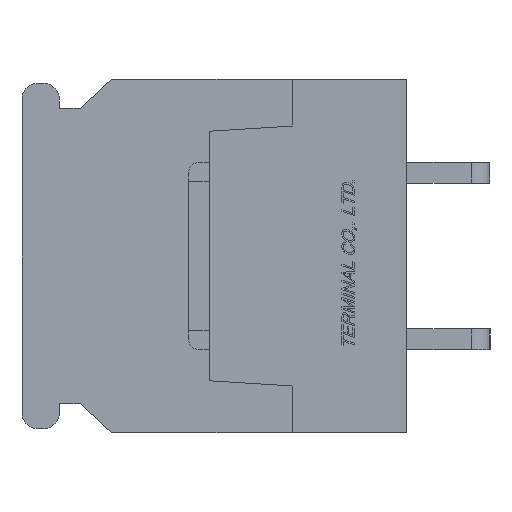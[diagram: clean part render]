
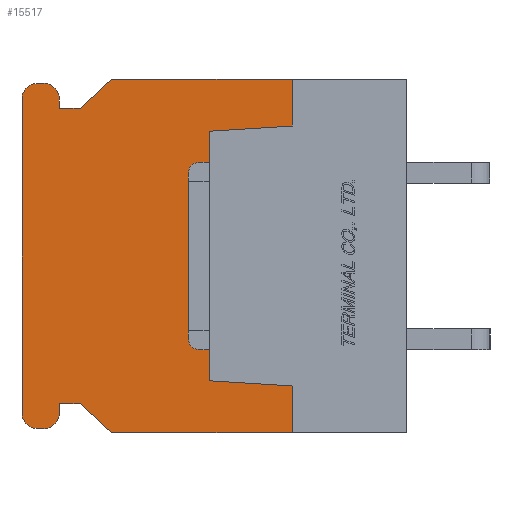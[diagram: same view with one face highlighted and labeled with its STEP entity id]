
A CAD part, left-side view. The second image highlights one B-rep face of the part: STEP entity #15517.
In plain terms, the highlighted planar face has unit normal (-1, 0, 0).
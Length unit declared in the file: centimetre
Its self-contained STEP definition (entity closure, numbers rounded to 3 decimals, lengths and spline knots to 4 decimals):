
#919=CIRCLE('',#16658,0.075);
#920=CIRCLE('',#16661,0.075);
#921=CIRCLE('',#16664,0.075);
#922=CIRCLE('',#16667,0.075);
#2085=VERTEX_POINT('',#24239);
#2086=VERTEX_POINT('',#24241);
#2087=VERTEX_POINT('',#24245);
#2088=VERTEX_POINT('',#24249);
#2089=VERTEX_POINT('',#24253);
#2090=VERTEX_POINT('',#24257);
#2135=VERTEX_POINT('',#24406);
#2136=VERTEX_POINT('',#24410);
#2137=VERTEX_POINT('',#24414);
#2138=VERTEX_POINT('',#24418);
#2139=VERTEX_POINT('',#24422);
#2140=VERTEX_POINT('',#24426);
#2141=VERTEX_POINT('',#24430);
#2142=VERTEX_POINT('',#24434);
#2143=VERTEX_POINT('',#24438);
#2144=VERTEX_POINT('',#24442);
#2145=VERTEX_POINT('',#24446);
#2146=VERTEX_POINT('',#24450);
#2147=VERTEX_POINT('',#24454);
#2148=VERTEX_POINT('',#24458);
#3723=VECTOR('',#19374,1.);
#3726=VECTOR('',#19378,1.);
#3728=VECTOR('',#19381,1.);
#3730=VECTOR('',#19384,1.);
#3732=VECTOR('',#19387,1.);
#3794=VECTOR('',#19507,1.);
#3796=VECTOR('',#19510,1.);
#3798=VECTOR('',#19513,1.);
#3800=VECTOR('',#19516,1.);
#3803=VECTOR('',#19524,1.);
#3806=VECTOR('',#19532,1.);
#3809=VECTOR('',#19540,1.);
#3812=VECTOR('',#19548,1.);
#3814=VECTOR('',#19551,1.);
#3816=VECTOR('',#19554,1.);
#3817=VECTOR('',#19556,1.);
#5451=LINE('',#24240,#3723);
#5454=LINE('',#24246,#3726);
#5456=LINE('',#24250,#3728);
#5458=LINE('',#24254,#3730);
#5460=LINE('',#24258,#3732);
#5522=LINE('',#24407,#3794);
#5524=LINE('',#24411,#3796);
#5526=LINE('',#24415,#3798);
#5528=LINE('',#24419,#3800);
#5531=LINE('',#24427,#3803);
#5534=LINE('',#24435,#3806);
#5537=LINE('',#24443,#3809);
#5540=LINE('',#24451,#3812);
#5542=LINE('',#24455,#3814);
#5544=LINE('',#24459,#3816);
#5545=LINE('',#24461,#3817);
#7649=EDGE_CURVE('',#2086,#2085,#5451,.T.);
#7652=EDGE_CURVE('',#2085,#2087,#5454,.T.);
#7654=EDGE_CURVE('',#2087,#2088,#5456,.T.);
#7656=EDGE_CURVE('',#2088,#2089,#5458,.T.);
#7658=EDGE_CURVE('',#2089,#2090,#5460,.T.);
#7732=EDGE_CURVE('',#2135,#2090,#5522,.T.);
#7734=EDGE_CURVE('',#2136,#2135,#5524,.T.);
#7736=EDGE_CURVE('',#2137,#2136,#5526,.T.);
#7738=EDGE_CURVE('',#2138,#2137,#5528,.T.);
#7740=EDGE_CURVE('',#2139,#2138,#919,.T.);
#7742=EDGE_CURVE('',#2140,#2139,#5531,.T.);
#7744=EDGE_CURVE('',#2141,#2140,#920,.T.);
#7746=EDGE_CURVE('',#2142,#2141,#5534,.T.);
#7748=EDGE_CURVE('',#2143,#2142,#921,.T.);
#7750=EDGE_CURVE('',#2144,#2143,#5537,.T.);
#7752=EDGE_CURVE('',#2145,#2144,#922,.T.);
#7754=EDGE_CURVE('',#2146,#2145,#5540,.T.);
#7756=EDGE_CURVE('',#2147,#2146,#5542,.T.);
#7758=EDGE_CURVE('',#2148,#2147,#5544,.T.);
#7759=EDGE_CURVE('',#2086,#2148,#5545,.T.);
#11887=ORIENTED_EDGE('',*,*,#7658,.T.);
#11888=ORIENTED_EDGE('',*,*,#7732,.F.);
#11889=ORIENTED_EDGE('',*,*,#7734,.F.);
#11890=ORIENTED_EDGE('',*,*,#7736,.F.);
#11891=ORIENTED_EDGE('',*,*,#7738,.F.);
#11892=ORIENTED_EDGE('',*,*,#7740,.F.);
#11893=ORIENTED_EDGE('',*,*,#7742,.F.);
#11894=ORIENTED_EDGE('',*,*,#7744,.F.);
#11895=ORIENTED_EDGE('',*,*,#7746,.F.);
#11896=ORIENTED_EDGE('',*,*,#7748,.F.);
#11897=ORIENTED_EDGE('',*,*,#7750,.F.);
#11898=ORIENTED_EDGE('',*,*,#7752,.F.);
#11899=ORIENTED_EDGE('',*,*,#7754,.F.);
#11900=ORIENTED_EDGE('',*,*,#7756,.F.);
#11901=ORIENTED_EDGE('',*,*,#7758,.F.);
#11902=ORIENTED_EDGE('',*,*,#7759,.F.);
#11903=ORIENTED_EDGE('',*,*,#7649,.T.);
#11904=ORIENTED_EDGE('',*,*,#7652,.T.);
#11905=ORIENTED_EDGE('',*,*,#7654,.T.);
#11906=ORIENTED_EDGE('',*,*,#7656,.T.);
#13657=EDGE_LOOP('',(#11887,#11888,#11889,#11890,#11891,#11892,#11893,#11894,
#11895,#11896,#11897,#11898,#11899,#11900,#11901,#11902,#11903,#11904,#11905,
#11906));
#14633=FACE_BOUND('',#13657,.T.);
#15517=ADVANCED_FACE('',(#14633),#26417,.F.);
#16658=AXIS2_PLACEMENT_3D('',#24423,#19520,#19521);
#16661=AXIS2_PLACEMENT_3D('',#24431,#19528,#19529);
#16664=AXIS2_PLACEMENT_3D('',#24439,#19536,#19537);
#16667=AXIS2_PLACEMENT_3D('',#24447,#19544,#19545);
#16672=AXIS2_PLACEMENT_3D('',#24462,#19557,$);
#19374=DIRECTION('',(0.,0.,1.));
#19378=DIRECTION('',(0.,0.998,0.062));
#19381=DIRECTION('',(0.,0.,1.));
#19384=DIRECTION('',(0.,-0.998,0.062));
#19387=DIRECTION('',(0.,0.,1.));
#19507=DIRECTION('',(0.,-1.,0.));
#19510=DIRECTION('',(0.,-0.731,0.682));
#19513=DIRECTION('',(0.,-1.,0.));
#19516=DIRECTION('',(0.,0.,-1.));
#19520=DIRECTION('',(1.,0.,0.));
#19521=DIRECTION('',(0.,0.,-0.075));
#19524=DIRECTION('',(0.,-1.,0.));
#19528=DIRECTION('',(1.,0.,0.));
#19529=DIRECTION('',(0.,0.,-0.075));
#19532=DIRECTION('',(0.,0.,1.));
#19536=DIRECTION('',(1.,0.,0.));
#19537=DIRECTION('',(0.,0.,-0.075));
#19540=DIRECTION('',(0.,1.,0.));
#19544=DIRECTION('',(1.,0.,0.));
#19545=DIRECTION('',(0.,0.,-0.075));
#19548=DIRECTION('',(0.,0.,-1.));
#19551=DIRECTION('',(0.,1.,0.));
#19554=DIRECTION('',(0.,0.731,0.682));
#19556=DIRECTION('',(0.,1.,0.));
#19557=DIRECTION('',(1.,0.,0.));
#24239=CARTESIAN_POINT('',(0.,0.55,-0.625));
#24240=CARTESIAN_POINT('',(0.,0.55,-0.3688));
#24241=CARTESIAN_POINT('',(0.,0.55,-0.85));
#24245=CARTESIAN_POINT('',(0.,0.95,-0.6));
#24246=CARTESIAN_POINT('',(0.,0.8629,-0.6054));
#24249=CARTESIAN_POINT('',(0.,0.95,0.6));
#24250=CARTESIAN_POINT('',(0.,0.95,0.));
#24253=CARTESIAN_POINT('',(0.,0.55,0.625));
#24254=CARTESIAN_POINT('',(0.,0.8629,0.6054));
#24257=CARTESIAN_POINT('',(0.,0.55,0.85));
#24258=CARTESIAN_POINT('',(0.,0.55,0.3687));
#24406=CARTESIAN_POINT('',(0.,1.42,0.85));
#24407=CARTESIAN_POINT('',(0.,1.42,0.85));
#24410=CARTESIAN_POINT('',(0.,1.57,0.71));
#24411=CARTESIAN_POINT('',(0.,1.57,0.71));
#24414=CARTESIAN_POINT('',(0.,1.67,0.71));
#24415=CARTESIAN_POINT('',(0.,1.67,0.71));
#24418=CARTESIAN_POINT('',(0.,1.67,0.755));
#24419=CARTESIAN_POINT('',(0.,1.67,0.755));
#24422=CARTESIAN_POINT('',(0.,1.745,0.83));
#24423=CARTESIAN_POINT('',(0.,1.745,0.755));
#24426=CARTESIAN_POINT('',(0.,1.775,0.83));
#24427=CARTESIAN_POINT('',(0.,1.775,0.83));
#24430=CARTESIAN_POINT('',(0.,1.85,0.755));
#24431=CARTESIAN_POINT('',(0.,1.775,0.755));
#24434=CARTESIAN_POINT('',(0.,1.85,-0.755));
#24435=CARTESIAN_POINT('',(0.,1.85,-0.755));
#24438=CARTESIAN_POINT('',(0.,1.775,-0.83));
#24439=CARTESIAN_POINT('',(0.,1.775,-0.755));
#24442=CARTESIAN_POINT('',(0.,1.745,-0.83));
#24443=CARTESIAN_POINT('',(0.,1.745,-0.83));
#24446=CARTESIAN_POINT('',(0.,1.67,-0.755));
#24447=CARTESIAN_POINT('',(0.,1.745,-0.755));
#24450=CARTESIAN_POINT('',(0.,1.67,-0.71));
#24451=CARTESIAN_POINT('',(0.,1.67,-0.71));
#24454=CARTESIAN_POINT('',(0.,1.57,-0.71));
#24455=CARTESIAN_POINT('',(0.,1.57,-0.71));
#24458=CARTESIAN_POINT('',(0.,1.42,-0.85));
#24459=CARTESIAN_POINT('',(0.,1.42,-0.85));
#24461=CARTESIAN_POINT('',(0.,0.,-0.85));
#24462=CARTESIAN_POINT('',(0.,0.9383,0.));
#26417=PLANE('',#16672);
